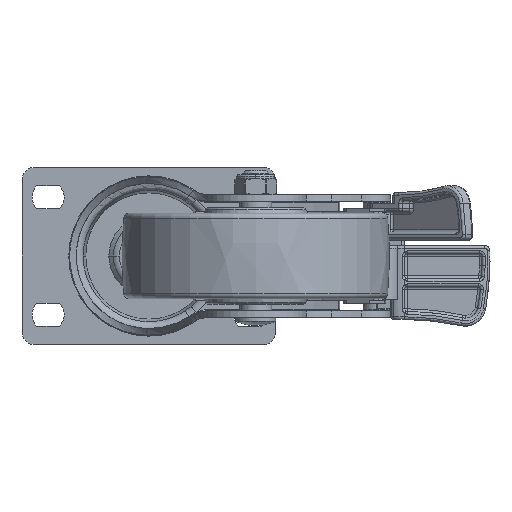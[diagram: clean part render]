
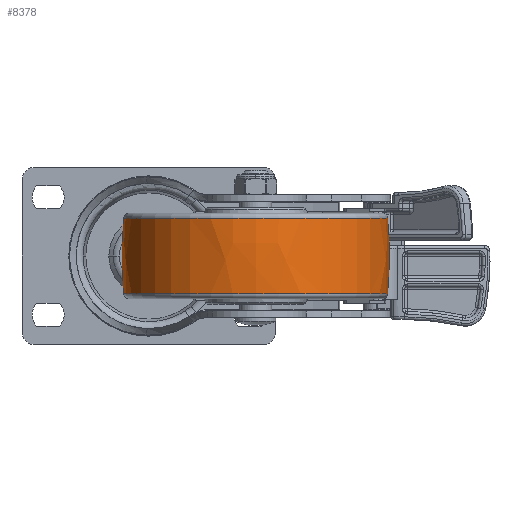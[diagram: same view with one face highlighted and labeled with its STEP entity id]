
A CAD part, front view. The second image highlights one B-rep face of the part: STEP entity #8378.
In plain terms, the highlighted free-form (B-spline) face has degree [3, 3] with [7, 4] control points.
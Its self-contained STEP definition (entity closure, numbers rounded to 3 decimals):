
#7790=CARTESIAN_POINT('',(0.009,-120.,
0.));
#7791=DIRECTION('',(0.,0.,1.));
#7792=DIRECTION('',(0.083,0.997,0.));
#7793=AXIS2_PLACEMENT_3D('',#7790,#7791,#7792);
#7795=CARTESIAN_POINT('',(0.009,120.,
0.));
#7796=DIRECTION('',(0.,0.,-1.));
#7797=DIRECTION('',(0.083,-0.997,0.));
#7798=AXIS2_PLACEMENT_3D('',#7795,#7796,#7797);
#7800=CARTESIAN_POINT('',(14.167,0.,0.));
#7801=DIRECTION('',(-1.,0.,0.));
#7802=DIRECTION('',(0.,1.,0.));
#7803=AXIS2_PLACEMENT_3D('',#7800,#7801,#7802);
#7825=CARTESIAN_POINT('',(-14.167,0.,0.));
#7826=DIRECTION('',(-1.,0.,0.));
#7827=DIRECTION('',(0.,1.,0.));
#7828=AXIS2_PLACEMENT_3D('',#7825,#7826,#7827);
#7969=CARTESIAN_POINT('',(14.167,49.41,0.));
#7971=VERTEX_POINT('',#7969);
#7972=CARTESIAN_POINT('',(-14.167,49.408,0.));
#7973=VERTEX_POINT('',#7972);
#8009=CARTESIAN_POINT('',(14.167,-49.41,
0.));
#8011=VERTEX_POINT('',#8009);
#8012=CARTESIAN_POINT('',(-14.167,-49.408,
0.));
#8013=VERTEX_POINT('',#8012);
#8340=CARTESIAN_POINT('',(-14.732,-49.263,
3.099));
#8341=CARTESIAN_POINT('',(-4.923,-50.115,
3.153));
#8342=CARTESIAN_POINT('',(4.923,-50.115,3.153));
#8343=CARTESIAN_POINT('',(14.732,-49.264,3.099));
#8344=CARTESIAN_POINT('',(-14.732,-51.17,
-27.217));
#8345=CARTESIAN_POINT('',(-4.923,-52.055,
-27.688));
#8346=CARTESIAN_POINT('',(4.923,-52.056,
-27.688));
#8347=CARTESIAN_POINT('',(14.732,-51.172,
-27.218));
#8348=CARTESIAN_POINT('',(-14.732,-30.376,
-49.36));
#8349=CARTESIAN_POINT('',(-4.923,-30.902,
-50.214));
#8350=CARTESIAN_POINT('',(4.923,-30.902,
-50.214));
#8351=CARTESIAN_POINT('',(14.732,-30.377,
-49.362));
#8352=CARTESIAN_POINT('',(-14.732,0.,
-49.36));
#8353=CARTESIAN_POINT('',(-4.923,0.,
-50.214));
#8354=CARTESIAN_POINT('',(4.923,0.,
-50.214));
#8355=CARTESIAN_POINT('',(14.732,0.,
-49.362));
#8356=CARTESIAN_POINT('',(-14.732,30.376,
-49.36));
#8357=CARTESIAN_POINT('',(-4.923,30.902,
-50.214));
#8358=CARTESIAN_POINT('',(4.923,30.902,-50.214));
#8359=CARTESIAN_POINT('',(14.732,30.377,-49.362));
#8360=CARTESIAN_POINT('',(-14.732,51.17,
-27.217));
#8361=CARTESIAN_POINT('',(-4.923,52.055,
-27.688));
#8362=CARTESIAN_POINT('',(4.923,52.056,-27.688));
#8363=CARTESIAN_POINT('',(14.732,51.172,-27.218));
#8364=CARTESIAN_POINT('',(-14.732,49.263,3.099));
#8365=CARTESIAN_POINT('',(-4.923,50.115,3.153));
#8366=CARTESIAN_POINT('',(4.923,50.115,3.153));
#8367=CARTESIAN_POINT('',(14.732,49.264,3.099));
#8368=(BOUNDED_SURFACE()B_SPLINE_SURFACE(3,3,((#8340,#8341,#8342,#8343),(#8344,
#8345,#8346,#8347),(#8348,#8349,#8350,#8351),(#8352,#8353,#8354,#8355),(#8356,
#8357,#8358,#8359),(#8360,#8361,#8362,#8363),(#8364,#8365,#8366,#8367)),
.UNSPECIFIED.,.F.,.F.,.F.)B_SPLINE_SURFACE_WITH_KNOTS((4,3,4),(4,4),(0.,1.,
2.),(0.,1.),.UNSPECIFIED.)GEOMETRIC_REPRESENTATION_ITEM()RATIONAL_B_SPLINE_SURFACE(((1.19,1.187,1.187,1.19),(
0.939,0.937,0.937,0.939),(
0.939,0.937,0.937,0.939),(
1.19,1.187,1.187,1.19),(
0.939,0.937,0.937,0.939),(
0.939,0.937,0.937,0.939),(
1.19,1.187,1.187,1.19)))REPRESENTATION_ITEM('')SURFACE());
#8370=ORIENTED_EDGE('',*,*,#8369,.T.);
#8372=ORIENTED_EDGE('',*,*,#8371,.T.);
#8374=ORIENTED_EDGE('',*,*,#8373,.F.);
#8375=ORIENTED_EDGE('',*,*,#8333,.F.);
#8376=EDGE_LOOP('',(#8370,#8372,#8374,#8375));
#8377=FACE_OUTER_BOUND('',#8376,.F.);
#7794=CIRCLE('',#7793,170.);
#7799=CIRCLE('',#7798,170.);
#7804=CIRCLE('',#7803,49.41);
#7829=CIRCLE('',#7828,49.408);
#8333=EDGE_CURVE('',#7971,#8011,#7804,.T.);
#8369=EDGE_CURVE('',#7971,#7973,#7794,.T.);
#8371=EDGE_CURVE('',#7973,#8013,#7829,.T.);
#8373=EDGE_CURVE('',#8011,#8013,#7799,.T.);
#8378=ADVANCED_FACE('',(#8377),#8368,.T.);
